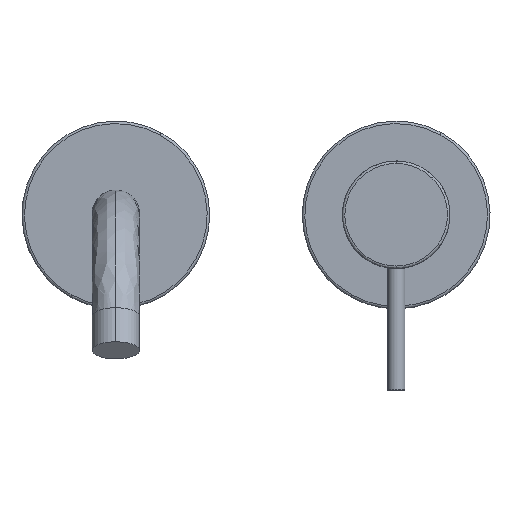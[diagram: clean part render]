
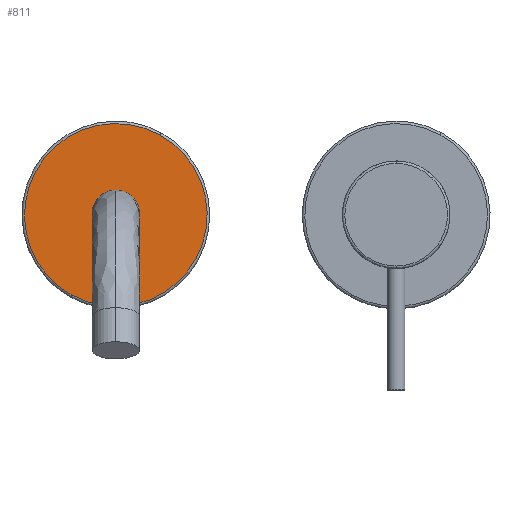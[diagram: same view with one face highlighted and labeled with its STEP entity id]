
A CAD part, top view. The second image highlights one B-rep face of the part: STEP entity #811.
In plain terms, the highlighted planar face has unit normal (0, 0, 1).
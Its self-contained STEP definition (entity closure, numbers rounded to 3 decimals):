
#10 = CARTESIAN_POINT ( 'NONE',  ( -94.501, 32.032, -19.5 ) ) ;
#20 = CARTESIAN_POINT ( 'NONE',  ( -112., 9.6, -19.5 ) ) ;
#66 = DIRECTION ( 'NONE',  ( 0., 0., -1. ) ) ;
#285 = AXIS2_PLACEMENT_3D ( 'NONE', #1979, #1819, #474 ) ;
#442 = CIRCLE ( 'NONE', #285, 36.5 ) ;
#474 = DIRECTION ( 'NONE',  ( -1., 0., 0. ) ) ;
#500 = CARTESIAN_POINT ( 'NONE',  ( -112., 0., -19.5 ) ) ;
#811 = ADVANCED_FACE ( 'NONE', ( #1176 ), #908, .F. ) ;
#825 = VERTEX_POINT ( 'NONE', #10 ) ;
#907 = EDGE_LOOP ( 'NONE', ( #1512, #1909 ) ) ;
#908 = PLANE ( 'NONE',  #976 ) ;
#927 = EDGE_CURVE ( 'NONE', #825, #1070, #442, .T. ) ;
#976 = AXIS2_PLACEMENT_3D ( 'NONE', #20, #1227, #1381 ) ;
#1070 = VERTEX_POINT ( 'NONE', #1165 ) ;
#1162 = AXIS2_PLACEMENT_3D ( 'NONE', #500, #66, #1590 ) ;
#1165 = CARTESIAN_POINT ( 'NONE',  ( -129.499, -32.032, -19.5 ) ) ;
#1176 = FACE_OUTER_BOUND ( 'NONE', #907, .T. ) ;
#1227 = DIRECTION ( 'NONE',  ( 0., 0., -1. ) ) ;
#1381 = DIRECTION ( 'NONE',  ( 1., 0., 0. ) ) ;
#1512 = ORIENTED_EDGE ( 'NONE', *, *, #1926, .F. ) ;
#1590 = DIRECTION ( 'NONE',  ( -1., 0., 0. ) ) ;
#1675 = CIRCLE ( 'NONE', #1162, 36.5 ) ;
#1819 = DIRECTION ( 'NONE',  ( 0., 0., -1. ) ) ;
#1909 = ORIENTED_EDGE ( 'NONE', *, *, #927, .F. ) ;
#1926 = EDGE_CURVE ( 'NONE', #1070, #825, #1675, .T. ) ;
#1979 = CARTESIAN_POINT ( 'NONE',  ( -112., 0., -19.5 ) ) ;
